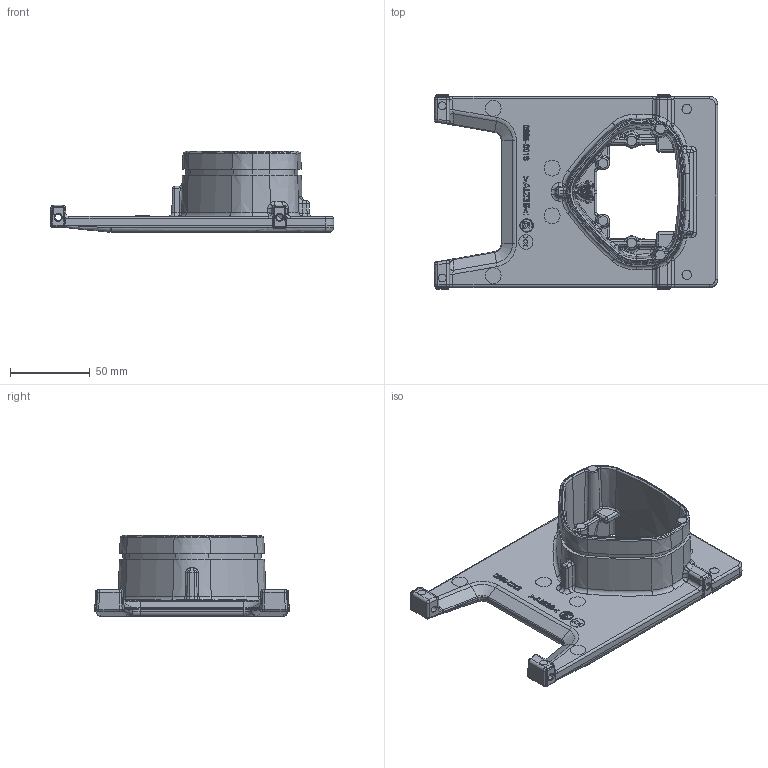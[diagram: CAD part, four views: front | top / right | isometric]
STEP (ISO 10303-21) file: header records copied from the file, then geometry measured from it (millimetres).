
FILE_DESCRIPTION(('CATIA V5 STEP 214'),'2;1');
FILE_NAME('C:\Temp\ddxv6\122143\ADAPTER_BG_B_MOTORMONTAGE.stp','2010-11-19T09:22:27+00:00',('Schaefer EPA'),('EPA GmbH'),'CATIA Version 5 Release 19 SP 8 (IN-10)','CATIA V5 STEP AP214','none');
FILE_SCHEMA(('AUTOMOTIVE_DESIGN { 1 0 10303 214 1 1 1 1 }'));
Length unit declared in the file: millimetre
Products named in the file (1): 10015344-1-0002A_AllCATPart
Bounding box: 178 x 122.01 x 51.3 mm (x, y, z)
Volume: 200736.9 mm3; surface area: 62076.4 mm2
Topology: 1 solids, 1 shells, 1525 faces, 3756 edges, 2241 vertices
Faces by surface type: plane 394, bspline 356, cylinder 277, extrusion 270, torus 123, cone 75, sphere 30
Entity records: 65488 total; most frequent: CARTESIAN_POINT 35641, ORIENTED_EDGE 7404, EDGE_CURVE 3702, DIRECTION 3590, VERTEX_POINT 2241, B_SPLINE_CURVE_WITH_KNOTS 2102, EDGE_LOOP 1593, ADVANCED_FACE 1525
